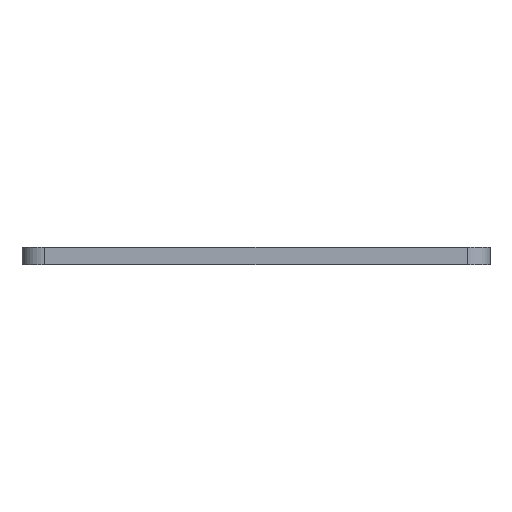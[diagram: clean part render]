
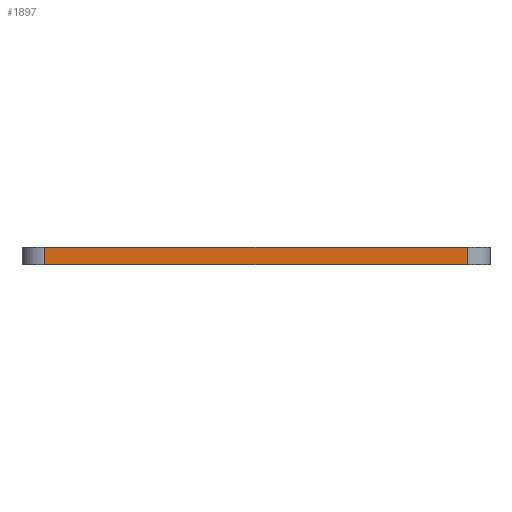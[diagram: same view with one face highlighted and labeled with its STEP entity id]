
A CAD part, front view. The second image highlights one B-rep face of the part: STEP entity #1897.
In plain terms, the highlighted planar face has unit normal (0, -1, 0).
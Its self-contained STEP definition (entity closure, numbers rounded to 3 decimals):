
#32 = PLANE('',#33);
#33 = AXIS2_PLACEMENT_3D('',#34,#35,#36);
#34 = CARTESIAN_POINT('',(0.,0.,6.));
#35 = DIRECTION('',(0.,0.,1.));
#36 = DIRECTION('',(1.,0.,0.));
#179 = VERTEX_POINT('',#180);
#180 = CARTESIAN_POINT('',(8.,0.,6.));
#195 = CYLINDRICAL_SURFACE('',#196,8.);
#196 = AXIS2_PLACEMENT_3D('',#197,#198,#199);
#197 = CARTESIAN_POINT('',(8.,8.,0.));
#198 = DIRECTION('',(0.,0.,1.));
#199 = DIRECTION('',(-1.,-0.,0.));
#207 = EDGE_CURVE('',#179,#208,#210,.T.);
#208 = VERTEX_POINT('',#209);
#209 = CARTESIAN_POINT('',(157.,0.,6.));
#210 = SURFACE_CURVE('',#211,(#215,#222),.PCURVE_S1.);
#211 = LINE('',#212,#213);
#212 = CARTESIAN_POINT('',(0.,0.,6.));
#213 = VECTOR('',#214,1.);
#214 = DIRECTION('',(1.,0.,0.));
#215 = PCURVE('',#32,#216);
#216 = DEFINITIONAL_REPRESENTATION('',(#217),#221);
#217 = LINE('',#218,#219);
#218 = CARTESIAN_POINT('',(0.,0.));
#219 = VECTOR('',#220,1.);
#220 = DIRECTION('',(1.,0.));
#221 = ( GEOMETRIC_REPRESENTATION_CONTEXT(2) 
PARAMETRIC_REPRESENTATION_CONTEXT() REPRESENTATION_CONTEXT('2D SPACE',''
  ) );
#222 = PCURVE('',#223,#228);
#223 = PLANE('',#224);
#224 = AXIS2_PLACEMENT_3D('',#225,#226,#227);
#225 = CARTESIAN_POINT('',(0.,0.,0.));
#226 = DIRECTION('',(0.,1.,0.));
#227 = DIRECTION('',(0.,0.,1.));
#228 = DEFINITIONAL_REPRESENTATION('',(#229),#233);
#229 = LINE('',#230,#231);
#230 = CARTESIAN_POINT('',(6.,0.));
#231 = VECTOR('',#232,1.);
#232 = DIRECTION('',(0.,1.));
#233 = ( GEOMETRIC_REPRESENTATION_CONTEXT(2) 
PARAMETRIC_REPRESENTATION_CONTEXT() REPRESENTATION_CONTEXT('2D SPACE',''
  ) );
#254 = CYLINDRICAL_SURFACE('',#255,8.);
#255 = AXIS2_PLACEMENT_3D('',#256,#257,#258);
#256 = CARTESIAN_POINT('',(157.,8.,0.));
#257 = DIRECTION('',(0.,0.,1.));
#258 = DIRECTION('',(1.,0.,-0.));
#1757 = PLANE('',#1758);
#1758 = AXIS2_PLACEMENT_3D('',#1759,#1760,#1761);
#1759 = CARTESIAN_POINT('',(0.,0.,0.));
#1760 = DIRECTION('',(0.,0.,1.));
#1761 = DIRECTION('',(1.,0.,0.));
#1794 = VERTEX_POINT('',#1795);
#1795 = CARTESIAN_POINT('',(157.,0.,0.));
#1821 = EDGE_CURVE('',#1794,#208,#1822,.T.);
#1822 = SURFACE_CURVE('',#1823,(#1827,#1834),.PCURVE_S1.);
#1823 = LINE('',#1824,#1825);
#1824 = CARTESIAN_POINT('',(157.,0.,0.));
#1825 = VECTOR('',#1826,1.);
#1826 = DIRECTION('',(0.,0.,1.));
#1827 = PCURVE('',#254,#1828);
#1828 = DEFINITIONAL_REPRESENTATION('',(#1829),#1833);
#1829 = LINE('',#1830,#1831);
#1830 = CARTESIAN_POINT('',(-1.571,0.));
#1831 = VECTOR('',#1832,1.);
#1832 = DIRECTION('',(-0.,1.));
#1833 = ( GEOMETRIC_REPRESENTATION_CONTEXT(2) 
PARAMETRIC_REPRESENTATION_CONTEXT() REPRESENTATION_CONTEXT('2D SPACE',''
  ) );
#1834 = PCURVE('',#223,#1835);
#1835 = DEFINITIONAL_REPRESENTATION('',(#1836),#1840);
#1836 = LINE('',#1837,#1838);
#1837 = CARTESIAN_POINT('',(0.,157.));
#1838 = VECTOR('',#1839,1.);
#1839 = DIRECTION('',(1.,0.));
#1840 = ( GEOMETRIC_REPRESENTATION_CONTEXT(2) 
PARAMETRIC_REPRESENTATION_CONTEXT() REPRESENTATION_CONTEXT('2D SPACE',''
  ) );
#1897 = ADVANCED_FACE('',(#1898),#223,.F.);
#1898 = FACE_BOUND('',#1899,.F.);
#1899 = EDGE_LOOP('',(#1900,#1923,#1944,#1945));
#1900 = ORIENTED_EDGE('',*,*,#1901,.F.);
#1901 = EDGE_CURVE('',#1902,#1794,#1904,.T.);
#1902 = VERTEX_POINT('',#1903);
#1903 = CARTESIAN_POINT('',(8.,0.,0.));
#1904 = SURFACE_CURVE('',#1905,(#1909,#1916),.PCURVE_S1.);
#1905 = LINE('',#1906,#1907);
#1906 = CARTESIAN_POINT('',(0.,0.,0.));
#1907 = VECTOR('',#1908,1.);
#1908 = DIRECTION('',(1.,0.,0.));
#1909 = PCURVE('',#223,#1910);
#1910 = DEFINITIONAL_REPRESENTATION('',(#1911),#1915);
#1911 = LINE('',#1912,#1913);
#1912 = CARTESIAN_POINT('',(0.,0.));
#1913 = VECTOR('',#1914,1.);
#1914 = DIRECTION('',(0.,1.));
#1915 = ( GEOMETRIC_REPRESENTATION_CONTEXT(2) 
PARAMETRIC_REPRESENTATION_CONTEXT() REPRESENTATION_CONTEXT('2D SPACE',''
  ) );
#1916 = PCURVE('',#1757,#1917);
#1917 = DEFINITIONAL_REPRESENTATION('',(#1918),#1922);
#1918 = LINE('',#1919,#1920);
#1919 = CARTESIAN_POINT('',(0.,0.));
#1920 = VECTOR('',#1921,1.);
#1921 = DIRECTION('',(1.,0.));
#1922 = ( GEOMETRIC_REPRESENTATION_CONTEXT(2) 
PARAMETRIC_REPRESENTATION_CONTEXT() REPRESENTATION_CONTEXT('2D SPACE',''
  ) );
#1923 = ORIENTED_EDGE('',*,*,#1924,.T.);
#1924 = EDGE_CURVE('',#1902,#179,#1925,.T.);
#1925 = SURFACE_CURVE('',#1926,(#1930,#1937),.PCURVE_S1.);
#1926 = LINE('',#1927,#1928);
#1927 = CARTESIAN_POINT('',(8.,0.,0.));
#1928 = VECTOR('',#1929,1.);
#1929 = DIRECTION('',(0.,0.,1.));
#1930 = PCURVE('',#223,#1931);
#1931 = DEFINITIONAL_REPRESENTATION('',(#1932),#1936);
#1932 = LINE('',#1933,#1934);
#1933 = CARTESIAN_POINT('',(0.,8.));
#1934 = VECTOR('',#1935,1.);
#1935 = DIRECTION('',(1.,0.));
#1936 = ( GEOMETRIC_REPRESENTATION_CONTEXT(2) 
PARAMETRIC_REPRESENTATION_CONTEXT() REPRESENTATION_CONTEXT('2D SPACE',''
  ) );
#1937 = PCURVE('',#195,#1938);
#1938 = DEFINITIONAL_REPRESENTATION('',(#1939),#1943);
#1939 = LINE('',#1940,#1941);
#1940 = CARTESIAN_POINT('',(1.571,0.));
#1941 = VECTOR('',#1942,1.);
#1942 = DIRECTION('',(0.,1.));
#1943 = ( GEOMETRIC_REPRESENTATION_CONTEXT(2) 
PARAMETRIC_REPRESENTATION_CONTEXT() REPRESENTATION_CONTEXT('2D SPACE',''
  ) );
#1944 = ORIENTED_EDGE('',*,*,#207,.T.);
#1945 = ORIENTED_EDGE('',*,*,#1821,.F.);
